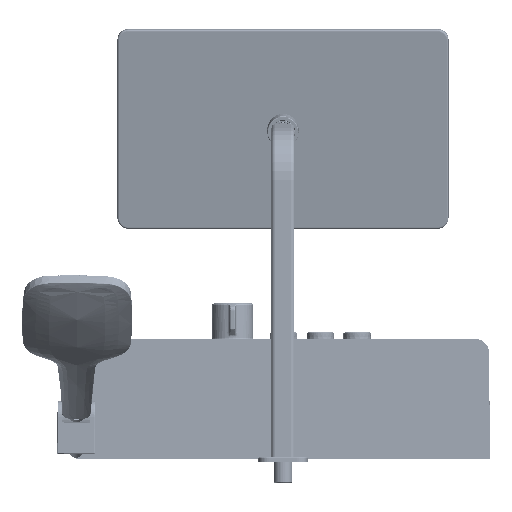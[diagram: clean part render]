
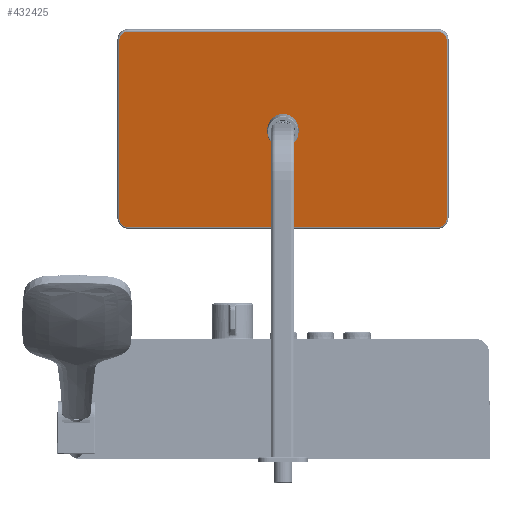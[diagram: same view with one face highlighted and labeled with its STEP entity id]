
A CAD part, top view. The second image highlights one B-rep face of the part: STEP entity #432425.
In plain terms, the highlighted planar face has unit normal (0, -0.174, 0.985) as drawn and (0, -1, 0) by its records, which use the part's own axes.
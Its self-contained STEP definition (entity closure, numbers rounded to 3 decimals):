
#431912=CARTESIAN_POINT('',(98.,-5.,168.));
#431913=DIRECTION('',(0.,1.,0.));
#431914=DIRECTION('',(0.,0.,1.));
#431915=AXIS2_PLACEMENT_3D('',#431912,#431913,#431914);
#431917=CARTESIAN_POINT('',(98.,-5.,-168.));
#431918=DIRECTION('',(0.,1.,0.));
#431919=DIRECTION('',(1.,0.,0.));
#431920=AXIS2_PLACEMENT_3D('',#431917,#431918,#431919);
#431922=CARTESIAN_POINT('',(-98.,-5.,-168.));
#431923=DIRECTION('',(0.,1.,0.));
#431924=DIRECTION('',(0.,0.,-1.));
#431925=AXIS2_PLACEMENT_3D('',#431922,#431923,#431924);
#431927=CARTESIAN_POINT('',(-98.,-5.,168.));
#431928=DIRECTION('',(0.,1.,0.));
#431929=DIRECTION('',(-1.,0.,0.));
#431930=AXIS2_PLACEMENT_3D('',#431927,#431928,#431929);
#431932=CARTESIAN_POINT('',(0.,-5.,0.));
#431933=DIRECTION('',(0.,-1.,0.));
#431934=DIRECTION('',(1.,0.,0.));
#431935=AXIS2_PLACEMENT_3D('',#431932,#431933,#431934);
#431937=CARTESIAN_POINT('',(0.,-5.,0.));
#431938=DIRECTION('',(0.,-1.,0.));
#431939=DIRECTION('',(-1.,0.,0.));
#431940=AXIS2_PLACEMENT_3D('',#431937,#431938,#431939);
#431957=DIRECTION('',(-1.,0.,0.));
#431958=VECTOR('',#431957,196.);
#431959=CARTESIAN_POINT('',(98.,-5.,178.));
#431960=LINE('',#431959,#431958);
#431973=DIRECTION('',(0.,0.,1.));
#431974=VECTOR('',#431973,336.);
#431975=CARTESIAN_POINT('',(108.,-5.,-168.));
#431976=LINE('',#431975,#431974);
#432004=DIRECTION('',(1.,0.,0.));
#432005=VECTOR('',#432004,196.);
#432006=CARTESIAN_POINT('',(-98.,-5.,-178.));
#432007=LINE('',#432006,#432005);
#432035=DIRECTION('',(0.,0.,-1.));
#432036=VECTOR('',#432035,336.);
#432037=CARTESIAN_POINT('',(-108.,-5.,168.));
#432038=LINE('',#432037,#432036);
#432257=CARTESIAN_POINT('',(-108.,-5.,168.));
#432258=CARTESIAN_POINT('',(-98.,-5.,178.));
#432259=VERTEX_POINT('',#432257);
#432260=VERTEX_POINT('',#432258);
#432261=CARTESIAN_POINT('',(98.,-5.,178.));
#432262=CARTESIAN_POINT('',(108.,-5.,168.));
#432263=VERTEX_POINT('',#432261);
#432264=VERTEX_POINT('',#432262);
#432265=CARTESIAN_POINT('',(108.,-5.,-168.));
#432266=VERTEX_POINT('',#432265);
#432267=CARTESIAN_POINT('',(98.,-5.,-178.));
#432268=VERTEX_POINT('',#432267);
#432269=CARTESIAN_POINT('',(-98.,-5.,-178.));
#432270=VERTEX_POINT('',#432269);
#432271=CARTESIAN_POINT('',(-108.,-5.,-168.));
#432272=VERTEX_POINT('',#432271);
#432273=CARTESIAN_POINT('',(14.,-5.,0.));
#432274=CARTESIAN_POINT('',(-14.,-5.,0.));
#432275=VERTEX_POINT('',#432273);
#432276=VERTEX_POINT('',#432274);
#432397=CARTESIAN_POINT('',(0.,-5.,0.));
#432398=DIRECTION('',(0.,1.,0.));
#432399=DIRECTION('',(-1.,0.,0.));
#432400=AXIS2_PLACEMENT_3D('',#432397,#432398,#432399);
#432401=PLANE('',#432400);
#432403=ORIENTED_EDGE('',*,*,#432402,.T.);
#432405=ORIENTED_EDGE('',*,*,#432404,.F.);
#432407=ORIENTED_EDGE('',*,*,#432406,.T.);
#432409=ORIENTED_EDGE('',*,*,#432408,.F.);
#432411=ORIENTED_EDGE('',*,*,#432410,.T.);
#432413=ORIENTED_EDGE('',*,*,#432412,.F.);
#432414=ORIENTED_EDGE('',*,*,#432387,.T.);
#432416=ORIENTED_EDGE('',*,*,#432415,.F.);
#432417=EDGE_LOOP('',(#432403,#432405,#432407,#432409,#432411,#432413,#432414,
#432416));
#432418=FACE_OUTER_BOUND('',#432417,.F.);
#432420=ORIENTED_EDGE('',*,*,#432419,.T.);
#432422=ORIENTED_EDGE('',*,*,#432421,.T.);
#432423=EDGE_LOOP('',(#432420,#432422));
#432424=FACE_BOUND('',#432423,.F.);
#431916=CIRCLE('',#431915,10.);
#431921=CIRCLE('',#431920,10.);
#431926=CIRCLE('',#431925,10.);
#431931=CIRCLE('',#431930,10.);
#431936=CIRCLE('',#431935,14.);
#431941=CIRCLE('',#431940,14.);
#432387=EDGE_CURVE('',#432259,#432260,#431931,.T.);
#432402=EDGE_CURVE('',#432263,#432264,#431916,.T.);
#432404=EDGE_CURVE('',#432266,#432264,#431976,.T.);
#432406=EDGE_CURVE('',#432266,#432268,#431921,.T.);
#432408=EDGE_CURVE('',#432270,#432268,#432007,.T.);
#432410=EDGE_CURVE('',#432270,#432272,#431926,.T.);
#432412=EDGE_CURVE('',#432259,#432272,#432038,.T.);
#432415=EDGE_CURVE('',#432263,#432260,#431960,.T.);
#432419=EDGE_CURVE('',#432275,#432276,#431936,.T.);
#432421=EDGE_CURVE('',#432276,#432275,#431941,.T.);
#432425=ADVANCED_FACE('',(#432418,#432424),#432401,.F.);
